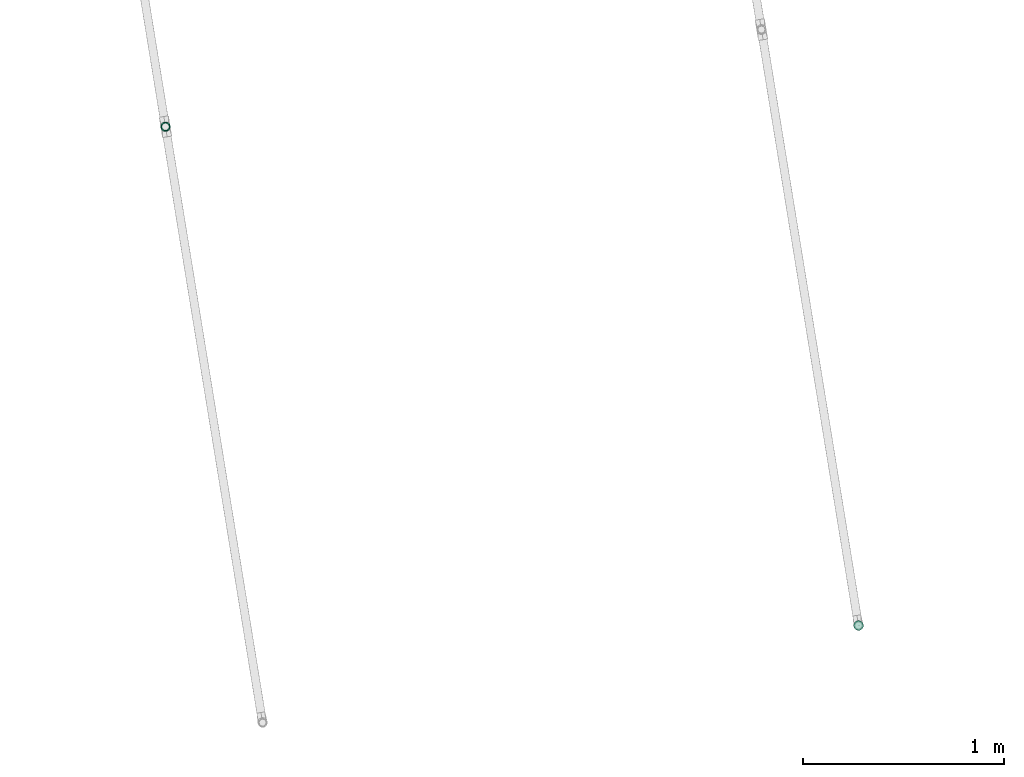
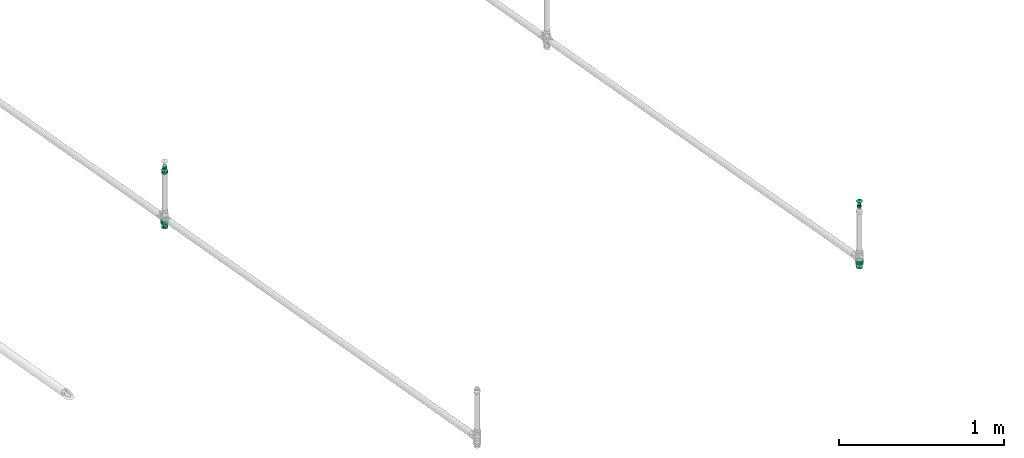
# One storey, part 32 of 56: 3 flow fittings, 1 flow terminal.
"""IFC2X3 building model written with IfcOpenShell, lengths in millimetres."""

from ifc_helpers import new_model, entity, si_unit, converted_unit, derived_unit, direction, frame, origin, origin_with_axes, place, context, subcontext, project, spatial, faceted_brep, source, transform, mapped, material, type_object, element, save


model = new_model("IFC2X3")

# Units and contexts
model_context = context("Model", 3, precision=0.01, world=origin(), true_north=direction((6.12323399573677e-17, 1.0)))
plan_context = context("Plan", 3, precision=1e-05, world=origin_with_axes())
body_context = subcontext(model_context, "Body", "Model", "MODEL_VIEW")
ifc_project = project(units=[converted_unit("PLANEANGLEUNIT", "DEGREE", entity("IfcPositiveLengthMeasure", 0.0174532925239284), si_unit("PLANEANGLEUNIT", "RADIAN"), dimensions=[0, 0, 0, 0, 0, 0, 0]), si_unit("AREAUNIT", "SQUARE_METRE"), si_unit("LENGTHUNIT", "METRE", prefix="MILLI"), si_unit("MASSUNIT", "GRAM", prefix="KILO"), si_unit("POWERUNIT", "WATT"), si_unit("PRESSUREUNIT", "PASCAL", prefix="KILO"), si_unit("FORCEUNIT", "NEWTON", prefix="KILO"), si_unit("ELECTRICVOLTAGEUNIT", "VOLT"), si_unit("ELECTRICCURRENTUNIT", "AMPERE"), si_unit("THERMODYNAMICTEMPERATUREUNIT", "DEGREE_CELSIUS"), si_unit("TIMEUNIT", "SECOND"), si_unit("VOLUMEUNIT", "CUBIC_METRE"), derived_unit("LINEARVELOCITYUNIT", [(si_unit("LENGTHUNIT", "METRE"), 1), (si_unit("TIMEUNIT", "SECOND"), -1)]), derived_unit("VOLUMETRICFLOWRATEUNIT", [(si_unit("VOLUMEUNIT", "CUBIC_METRE"), 1), (si_unit("TIMEUNIT", "SECOND"), -1)]), derived_unit("THERMALTRANSMITTANCEUNIT", [(si_unit("POWERUNIT", "WATT"), 1), (si_unit("THERMODYNAMICTEMPERATUREUNIT", "KELVIN"), -1), (si_unit("AREAUNIT", "SQUARE_METRE"), -1)]), derived_unit("SOUNDPRESSUREUNIT", [(si_unit("PRESSUREUNIT", "PASCAL"), 1)])], contexts=[model_context, plan_context])

# Site, building, storey
site_placement = place(None, frame((-3.09682673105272e-06, 1.93776733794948e-05, 0.0), z_axis=(0.0, 0.0, 1.0), x_axis=(-0.160806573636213, 0.986985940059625, 0.0)))
site = spatial("IfcSite", under=ifc_project, at=site_placement, Name="Default", CompositionType="ELEMENT")
building_placement = place(site_placement, frame((0.0, 0.0, 0.0), z_axis=(0.0, 0.0, 1.0), x_axis=(1.0, -2.77555756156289e-17, 0.0)))
building = spatial("IfcBuilding", under=site, at=building_placement, Name="Bygning (endres i Project Information)", CompositionType="ELEMENT")
storey_placement = place(building_placement, frame((0.0, 0.0, 51360.0000000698), z_axis=(0.0, 0.0, 1.0), x_axis=(1.0, -2.77555756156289e-17, 0.0)))
storey = spatial("IfcBuildingStorey", under=building, at=storey_placement, Name="H01-Nivå D+0,36", CompositionType="ELEMENT", Elevation=51360.0000000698)

# Flow fittings
ifc_material = material(Name="3320.001")
pipe_fitting_type_1 = type_object("IfcPipeFittingType", Name="RS_53_PIF_UN_Reducing-Socket-EN10241_MC_gen:RS_53_PIF_UN_Reducing-Socket-EN10241_MC_gen", PredefinedType="NOTDEFINED", material=ifc_material)
shared_shape_1 = source(origin(), body_context, "Body", "Brep", [
    faceted_brep([(0.0, 5.11167614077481, 19.0770350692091), (0.0, 9.87500000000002, 17.1040017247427), (0.0, 13.9653589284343, 13.9653589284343), (0.0, 17.1040017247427, 9.87499999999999), (0.0, 19.0770350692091, 5.11167614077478), (0.0, 19.75, 0.0), (0.0, 19.0770350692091, -5.1116761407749), (0.0, 17.1040017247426, -9.8750000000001), (0.0, 13.9653589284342, -13.9653589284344), (0.0, 9.87499999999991, -17.1040017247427), (0.0, 5.11167614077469, -19.0770350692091), (0.0, 0.0, -19.75), (0.0, -5.11167614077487, -19.0770350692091), (0.0, -9.87500000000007, -17.1040017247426), (0.0, -13.9653589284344, -13.9653589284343), (0.0, -17.1040017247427, -9.87499999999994), (0.0, -19.0770350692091, -5.11167614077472), (0.0, -19.75, 0.0), (0.0, -19.0770350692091, 5.11167614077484), (0.0, -17.1040017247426, 9.87500000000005), (0.0, -13.9653589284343, 13.9653589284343), (0.0, -9.87499999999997, 17.1040017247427), (0.0, -5.11167614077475, 19.0770350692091), (0.0, 0.0, 19.75), (17.0, -6.65118285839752, -18.277344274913), (17.0, -15.1289479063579, -12.6955675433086), (17.0, -16.8438814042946, -9.72538978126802), (17.0, -18.5588149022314, -6.7552120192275), (17.0, -9.87413131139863, -17.1045032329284), (17.0, -12.5015396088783, -14.9000353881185), (17.0, -19.1544074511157, -3.37760600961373), (17.0, -3.42823440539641, -19.4501853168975), (17.0, 3.43119786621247, -19.4496627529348), (17.0, 0.0014817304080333, -19.4499240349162), (17.0, -19.75, 0.0), (17.0, 6.65396758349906, -18.2763306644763), (17.0, 9.87673730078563, -17.1029985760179), (17.0, 18.5598439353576, -6.75238425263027), (17.0, 16.8453630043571, -9.7228232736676), (17.0, 15.1308820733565, -12.6932622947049), (17.0, 12.5038096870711, -14.8981304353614), (17.0, 19.75, 0.0), (17.0, 15.1308820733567, 12.6932622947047), (17.0, 16.8453630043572, 9.72282327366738), (17.0, 18.5598439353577, 6.75238425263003), (17.0, 9.87673730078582, 17.1029985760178), (17.0, 12.5038096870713, 14.8981304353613), (17.0, 3.43119786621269, 19.4496627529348), (17.0, 6.65396758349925, 18.2763306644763), (17.0, -3.4282344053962, 19.4501853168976), (17.0, 0.00148173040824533, 19.4499240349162), (17.0, -15.1289479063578, 12.6955675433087), (17.0, -6.65118285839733, 18.277344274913), (17.0, -9.87413131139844, 17.1045032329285), (17.0, -12.5015396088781, 14.9000353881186), (17.0, -19.1544074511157, 3.37760600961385), (17.0, -18.5588149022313, 6.75521201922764), (17.0, -16.8438814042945, 9.72538978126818), (34.0, 13.5000000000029, 0.0), (34.0, 12.6868795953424, -4.61444320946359), (34.0, -4.54589529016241, -12.4935366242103), (34.0, -2.34276817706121, -13.2951659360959), (34.0, 6.75195505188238, -11.6902139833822), (34.0, 0.00166747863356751, -13.2948718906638), (34.0, 2.34610313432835, -13.2945778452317), (34.0, 10.3432928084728, -8.67561489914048), (34.0, 8.54762393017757, -10.1829144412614), (34.0, 4.54902909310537, -12.492395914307), (34.0, 11.5150862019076, -6.64502905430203), (34.0, -6.74902240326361, -11.6919073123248), (34.0, -13.4999999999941, 0.0), (34.0, -13.0928608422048, -2.30881275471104), (34.0, -10.3411162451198, -8.6782091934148), (34.0, -8.54506932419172, -10.1850582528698), (34.0, -12.6857216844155, -4.61762550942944), (34.0, -11.5134189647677, -6.64791735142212), (34.0, -13.0928608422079, 2.30881275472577), (34.0, -12.6857216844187, 4.6176255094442), (34.0, 2.34610313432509, 13.2945778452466), (34.0, 4.54902909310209, 12.4923959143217), (34.0, -10.3411162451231, 8.67820919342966), (34.0, 0.00166747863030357, 13.2948718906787), (34.0, -6.74902240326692, 11.6919073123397), (34.0, -8.54506932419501, 10.1850582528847), (34.0, -11.5134189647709, 6.64791735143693), (34.0, -2.34276817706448, 13.2951659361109), (34.0, -4.5458952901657, 12.4935366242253), (34.0, 12.6868795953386, 4.61444320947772), (34.0, 11.5150862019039, 6.64502905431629), (34.0, 10.3432928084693, 8.67561489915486), (34.0, 6.7519550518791, 11.6902139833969), (34.0, 8.54762393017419, 10.1829144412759), (51.0, 3.49405710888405, -13.0399986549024), (51.0, 6.75000000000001, -11.6913429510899), (51.0, 9.5459415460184, -9.54594154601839), (51.0, 11.6913429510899, -6.74999999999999), (51.0, 13.0399986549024, -3.49405710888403), (51.0, 13.5, 0.0), (51.0, 13.0399986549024, 3.49405710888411), (51.0, 11.6913429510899, 6.75000000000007), (51.0, 9.54594154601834, 9.54594154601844), (51.0, 6.74999999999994, 11.69134295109), (51.0, 3.49405710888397, 13.0399986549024), (51.0, 0.0, 13.5), (51.0, -3.49405710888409, 13.0399986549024), (51.0, -6.75000000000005, 11.6913429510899), (51.0, -9.54594154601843, 9.54594154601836), (51.0, -11.6913429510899, 6.74999999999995), (51.0, -13.0399986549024, 3.49405710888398), (51.0, -13.5, 0.0), (51.0, -13.0399986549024, -3.49405710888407), (51.0, -11.6913429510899, -6.75000000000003), (51.0, -9.54594154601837, -9.54594154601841), (51.0, -6.74999999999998, -11.6913429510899), (51.0, -3.49405710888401, -13.0399986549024), (51.0, 0.0, -13.5)], [[[0, 1, 2, 3, 4, 5, 6, 7, 8, 9, 10, 11, 12, 13, 14, 15, 16, 17, 18, 19, 20, 21, 22, 23]], [[24, 13, 12]], [[15, 14, 25]], [[15, 25, 26, 27]], [[28, 29, 13]], [[16, 27, 30]], [[30, 17, 16]], [[15, 27, 16]], [[12, 31, 24]], [[25, 14, 29]], [[11, 32, 33, 31]], [[24, 28, 13]], [[13, 29, 14]], [[30, 34, 17]], [[32, 11, 10]], [[35, 9, 36]], [[7, 37, 38, 39]], [[9, 35, 10]], [[7, 6, 37]], [[8, 39, 40]], [[32, 10, 35]], [[7, 39, 8]], [[40, 36, 9]], [[6, 41, 37]], [[6, 5, 41]], [[11, 31, 12]], [[40, 9, 8]], [[41, 5, 4]], [[3, 2, 42]], [[3, 42, 43, 44]], [[45, 46, 1]], [[44, 41, 4]], [[0, 47, 48]], [[42, 2, 46]], [[23, 49, 50, 47]], [[1, 46, 2]], [[49, 23, 22]], [[19, 51, 20]], [[52, 21, 53]], [[3, 44, 4]], [[48, 45, 1]], [[54, 53, 21]], [[17, 34, 55]], [[21, 52, 22]], [[20, 51, 54]], [[49, 22, 52]], [[48, 1, 0]], [[17, 55, 18]], [[56, 19, 18]], [[18, 55, 56]], [[54, 21, 20]], [[57, 51, 19, 56]], [[23, 47, 0]], [[41, 58, 59]], [[60, 31, 61]], [[40, 62, 36]], [[63, 32, 64]], [[65, 39, 38]], [[64, 32, 35]], [[61, 33, 63]], [[37, 41, 59]], [[62, 40, 66]], [[40, 39, 66]], [[35, 36, 67]], [[65, 38, 68]], [[37, 68, 38]], [[64, 35, 67]], [[61, 31, 33]], [[69, 28, 24]], [[69, 24, 60]], [[70, 30, 71]], [[72, 29, 73]], [[30, 70, 34]], [[74, 27, 26]], [[68, 37, 59]], [[72, 25, 29]], [[27, 74, 71]], [[31, 60, 24]], [[29, 28, 73]], [[75, 26, 25]], [[67, 36, 62]], [[66, 39, 65]], [[27, 71, 30]], [[74, 26, 75]], [[73, 28, 69]], [[63, 33, 32]], [[75, 25, 72]], [[56, 76, 77]], [[48, 78, 79]], [[54, 51, 80]], [[81, 47, 50]], [[57, 56, 77]], [[52, 53, 82]], [[82, 53, 83]], [[55, 70, 76]], [[70, 55, 34]], [[84, 51, 57]], [[50, 85, 81]], [[56, 55, 76]], [[86, 49, 52]], [[83, 53, 54]], [[81, 78, 47]], [[48, 47, 78]], [[80, 51, 84]], [[49, 85, 50]], [[87, 44, 88]], [[87, 58, 41]], [[43, 42, 89]], [[57, 77, 84]], [[46, 45, 90]], [[85, 49, 86]], [[88, 44, 43]], [[54, 80, 83]], [[91, 42, 46]], [[52, 82, 86]], [[89, 42, 91]], [[87, 41, 44]], [[90, 45, 79]], [[46, 90, 91]], [[79, 45, 48]], [[43, 89, 88]], [[92, 93, 94, 95, 96, 97, 98, 99, 100, 101, 102, 103, 104, 105, 106, 107, 108, 109, 110, 111, 112, 113, 114, 115]], [[58, 97, 96]], [[95, 94, 65]], [[95, 65, 68, 59]], [[62, 66, 93]], [[59, 58, 96]], [[92, 64, 67]], [[65, 94, 66]], [[115, 61, 63, 64]], [[93, 66, 94]], [[67, 93, 92]], [[67, 62, 93]], [[95, 59, 96]], [[114, 61, 115]], [[111, 110, 74]], [[73, 113, 112]], [[109, 71, 110]], [[111, 74, 75, 72]], [[109, 70, 71]], [[60, 61, 114]], [[113, 69, 60]], [[111, 72, 112]], [[113, 60, 114]], [[112, 72, 73]], [[115, 64, 92]], [[71, 74, 110]], [[73, 69, 113]], [[86, 105, 104]], [[107, 106, 80]], [[107, 80, 84, 77]], [[82, 83, 105]], [[108, 77, 76]], [[76, 70, 109]], [[76, 109, 108]], [[104, 85, 86]], [[80, 106, 83]], [[103, 78, 81, 85]], [[91, 101, 100]], [[105, 83, 106]], [[86, 82, 105]], [[78, 103, 102]], [[79, 101, 90]], [[99, 87, 88, 89]], [[101, 79, 102]], [[99, 98, 87]], [[100, 89, 91]], [[78, 102, 79]], [[103, 85, 104]], [[99, 89, 100]], [[98, 58, 87]], [[107, 77, 108]], [[98, 97, 58]], [[91, 90, 101]]]),
])
flow_fitting_placement = place(storey_placement, frame((997236.263254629, -386286.663841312, 3707.99999993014), z_axis=(2.77555756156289e-17, 1.0, 0.0), x_axis=(0.0, 0.0, 1.0)))
element("IfcFlowFitting", 1, at=flow_fitting_placement, inside=storey, type_object=pipe_fitting_type_1, material=ifc_material, Name="RS_53_PIF_UN_Reducing-Socket-EN10241_MC_gen:RS_53_PIF_UN_Reducing-Socket-EN10241_MC_gen", ObjectType="RS_53_PIF_UN_Reducing-Socket-EN10241_MC_gen:RS_53_PIF_UN_Reducing-Socket-EN10241_MC_gen", context=body_context, shape_type="MappedRepresentation", body=[
    mapped(shared_shape_1, transform((0.0, 0.0, 0.0), scale=1.0)),
])
pipe_fitting_type_2 = type_object("IfcPipeFittingType", Name="RS_53_PIF_UN_Reducing-Socket-EN10241_MC_gen:RS_53_PIF_UN_Reducing-Socket-EN10241_MC_gen", PredefinedType="NOTDEFINED", material=ifc_material)
shared_shape_2 = source(origin(), body_context, "Body", "Brep", [
    faceted_brep([(0.0, -12.25, 21.2176223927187), (0.0, -6.34106660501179, 23.6651827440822), (0.0, 0.0, 24.5), (0.0, 6.34106660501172, 23.6651827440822), (0.0, 12.25, 21.2176223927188), (0.0, 17.3241161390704, 17.3241161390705), (0.0, 21.2176223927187, 12.2500000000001), (0.0, 23.6651827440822, 6.34106660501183), (0.0, 24.5, 0.0), (0.0, 23.6651827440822, -6.34106660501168), (0.0, 21.2176223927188, -12.2499999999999), (0.0, 17.3241161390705, -17.3241161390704), (0.0, 12.2500000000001, -21.2176223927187), (0.0, 6.34106660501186, -23.6651827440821), (0.0, 0.0, -24.5), (0.0, -6.34106660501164, -23.6651827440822), (0.0, -12.2499999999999, -21.2176223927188), (0.0, -17.3241161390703, -17.3241161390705), (0.0, -21.2176223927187, -12.2500000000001), (0.0, -23.6651827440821, -6.34106660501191), (0.0, -24.5, 0.0), (0.0, -23.6651827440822, 6.34106660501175), (0.0, -21.2176223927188, 12.25), (0.0, -17.3241161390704, 17.3241161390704), (18.6666666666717, 8.25137606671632, -22.6729794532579), (18.6666666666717, 18.7677686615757, -15.7486780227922), (18.6666666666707, 20.8950763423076, -12.0642027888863), (18.6666666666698, 23.0223840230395, -8.37972755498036), (18.6666666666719, 15.5085607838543, -18.4833370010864), (18.6666666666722, 12.2493529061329, -21.2179959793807), (18.6666666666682, 23.7611920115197, -4.18986377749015), (18.6666666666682, 23.7125607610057, -4.46565710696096), (18.6666666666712, 4.25339922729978, -24.1279629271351), (18.6666666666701, -0.00110376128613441, -24.1277682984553), (18.6666666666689, -4.25560674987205, -24.1275736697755), (18.6666666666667, 24.5, 0.0), (18.6666666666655, -12.2512941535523, -21.2168751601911), (18.6666666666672, -8.25345045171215, -22.6722244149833), (18.6666666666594, -20.8961800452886, -12.062290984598), (18.6666666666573, -23.0231506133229, -8.37762113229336), (18.6666666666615, -18.7692094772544, -15.7469608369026), (18.6666666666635, -15.5102518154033, -18.4819179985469), (18.6666666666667, -24.5, 0.0), (18.6666666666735, -18.7692094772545, 15.7469608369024), (18.666666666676, -20.8961800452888, 12.0622909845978), (18.6666666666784, -23.023150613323, 8.3776211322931), (18.6666666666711, -15.5102518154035, 18.4819179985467), (18.6666666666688, -12.2512941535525, 21.216875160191), (18.6666666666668, -8.25345045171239, 22.6722244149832), (18.6666666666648, -4.25560674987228, 24.1275736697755), (18.6666666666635, -0.00110376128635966, 24.1277682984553), (18.6666666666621, 4.25339922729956, 24.1279629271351), (18.6666666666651, 23.7611920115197, 4.1898637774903), (18.666666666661, 12.2493529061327, 21.2179959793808), (18.6666666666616, 8.25137606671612, 22.672979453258), (18.6666666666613, 15.5085607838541, 18.4833370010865), (18.6666666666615, 18.7677686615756, 15.7486780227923), (18.6666666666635, 23.0223840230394, 8.37972755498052), (18.6666666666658, 23.7125607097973, 4.46565739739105), (18.6666666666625, 20.8950763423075, 12.0642027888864), (37.3333333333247, -18.5595959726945, -6.75306577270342), (37.3333333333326, -19.750000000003, 0.0), (37.3333333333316, -9.87626627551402, -17.1032705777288), (37.3333333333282, -15.1304742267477, -12.6937484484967), (37.3333333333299, -12.5033702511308, -14.8985095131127), (37.3333333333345, -3.43075149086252, -19.4497414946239), (37.333333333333, -6.65350888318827, -18.2765060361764), (37.3333333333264, -16.8450350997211, -9.72340711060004), (37.3333333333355, -0.00107998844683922, -19.4499319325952), (37.3333333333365, 3.42859151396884, -19.4501223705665), (37.3333333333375, 9.87436684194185, -17.1043672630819), (37.333333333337, 6.65147917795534, -18.2772448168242), (37.3333333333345, 19.1544229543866, -3.37756341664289), (37.3333333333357, 18.558845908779, -6.75512683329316), (37.3333333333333, 19.7499999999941, 0.0), (37.3333333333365, 16.8439551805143, -9.72527774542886), (37.3333333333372, 15.1290644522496, -12.6954286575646), (37.3333333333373, 12.5017156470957, -14.8998979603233), (37.3333333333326, 19.1544229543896, 3.37756341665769), (37.3333333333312, 18.5588459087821, 6.755126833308), (37.3333333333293, 15.1290644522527, 12.6954286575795), (37.3333333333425, -16.8450350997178, 9.72340711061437), (37.3333333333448, -18.559595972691, 6.75306577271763), (37.3333333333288, 9.87436684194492, 17.104367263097), (37.3333333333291, 12.5017156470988, 14.8998979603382), (37.3333333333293, 6.65147917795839, 18.2772448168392), (37.3333333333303, 16.8439551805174, 9.72527774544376), (37.3333333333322, -3.43075149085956, 19.4497414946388), (37.333333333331, -0.00107998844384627, 19.4499319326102), (37.3333333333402, -15.1304742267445, 12.6937484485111), (37.333333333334, -6.65350888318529, 18.2765060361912), (37.3333333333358, -9.87626627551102, 17.1032705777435), (37.333333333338, -12.5033702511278, 14.8985095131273), (37.3333333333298, 3.42859151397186, 19.4501223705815), (56.0, 0.0, -19.75), (56.0, 5.11167614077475, -19.0770350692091), (56.0, 9.87499999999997, -17.1040017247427), (56.0, 13.9653589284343, -13.9653589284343), (56.0, 17.1040017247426, -9.87500000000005), (56.0, 19.0770350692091, -5.11167614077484), (56.0, 19.75, 0.0), (56.0, 19.0770350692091, 5.11167614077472), (56.0, 17.1040017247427, 9.87499999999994), (56.0, 13.9653589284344, 13.9653589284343), (56.0, 9.87500000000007, 17.1040017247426), (56.0, 5.11167614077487, 19.0770350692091), (56.0, 0.0, 19.75), (56.0, -5.11167614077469, 19.0770350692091), (56.0, -9.87499999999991, 17.1040017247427), (56.0, -13.9653589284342, 13.9653589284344), (56.0, -17.1040017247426, 9.8750000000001), (56.0, -19.0770350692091, 5.1116761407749), (56.0, -19.75, 0.0), (56.0, -19.0770350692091, -5.11167614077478), (56.0, -17.1040017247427, -9.87499999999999), (56.0, -13.9653589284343, -13.9653589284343), (56.0, -9.87500000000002, -17.1040017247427), (56.0, -5.11167614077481, -19.0770350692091)], [[[0, 1, 2, 3, 4, 5, 6, 7, 8, 9, 10, 11, 12, 13, 14, 15, 16, 17, 18, 19, 20, 21, 22, 23]], [[13, 12, 24]], [[25, 11, 10]], [[26, 25, 10, 27]], [[12, 28, 29]], [[9, 30, 31, 27]], [[9, 8, 30]], [[9, 27, 10]], [[24, 32, 13]], [[28, 11, 25]], [[33, 34, 14, 32]], [[12, 29, 24]], [[11, 28, 12]], [[8, 35, 30]], [[15, 14, 34]], [[36, 16, 37]], [[38, 39, 18, 40]], [[15, 37, 16]], [[39, 19, 18]], [[41, 40, 17]], [[37, 15, 34]], [[17, 40, 18]], [[16, 36, 41]], [[39, 42, 19]], [[42, 20, 19]], [[13, 32, 14]], [[17, 16, 41]], [[21, 20, 42]], [[43, 23, 22]], [[44, 43, 22, 45]], [[0, 46, 47]], [[21, 42, 45]], [[48, 49, 1]], [[46, 23, 43]], [[50, 51, 2, 49]], [[23, 46, 0]], [[3, 2, 51]], [[1, 49, 2]], [[7, 52, 8]], [[53, 4, 54]], [[1, 0, 48]], [[5, 4, 55]], [[8, 52, 35]], [[21, 45, 22]], [[3, 54, 4]], [[55, 56, 5]], [[54, 3, 51]], [[0, 47, 48]], [[5, 56, 6]], [[7, 6, 57]], [[7, 57, 58, 52]], [[4, 53, 55]], [[6, 56, 59, 57]], [[60, 61, 42]], [[36, 62, 41]], [[63, 40, 64]], [[63, 38, 40]], [[65, 37, 34]], [[66, 37, 65]], [[60, 42, 39]], [[67, 38, 63]], [[64, 40, 41]], [[66, 36, 37]], [[64, 41, 62]], [[38, 67, 39]], [[68, 33, 69]], [[33, 32, 69]], [[29, 70, 24]], [[71, 69, 32]], [[72, 31, 30, 35]], [[26, 27, 73]], [[35, 74, 72]], [[73, 75, 26]], [[28, 25, 76]], [[76, 77, 28]], [[71, 24, 70]], [[71, 32, 24]], [[29, 77, 70]], [[25, 75, 76]], [[28, 77, 29]], [[26, 75, 25]], [[27, 31, 73]], [[72, 73, 31]], [[62, 36, 66]], [[34, 33, 68]], [[65, 34, 68]], [[60, 39, 67]], [[78, 58, 79]], [[56, 55, 80]], [[81, 45, 82]], [[57, 59, 79]], [[53, 54, 83]], [[84, 80, 55]], [[78, 35, 52, 58]], [[58, 57, 79]], [[55, 53, 84]], [[54, 51, 85]], [[74, 35, 78]], [[59, 56, 86]], [[53, 83, 84]], [[87, 88, 49]], [[87, 49, 48]], [[86, 79, 59]], [[85, 83, 54]], [[50, 49, 88]], [[42, 61, 82]], [[89, 43, 44]], [[48, 47, 90]], [[91, 47, 46]], [[56, 80, 86]], [[44, 45, 81]], [[90, 87, 48]], [[46, 43, 92]], [[90, 47, 91]], [[93, 51, 50]], [[82, 45, 42]], [[51, 93, 85]], [[81, 89, 44]], [[88, 93, 50]], [[92, 91, 46]], [[92, 43, 89]], [[94, 95, 96, 97, 98, 99, 100, 101, 102, 103, 104, 105, 106, 107, 108, 109, 110, 111, 112, 113, 114, 115, 116, 117]], [[113, 112, 61]], [[63, 115, 114]], [[67, 63, 114, 60]], [[116, 64, 62]], [[113, 61, 60]], [[66, 65, 117]], [[64, 115, 63]], [[68, 69, 94, 65]], [[115, 64, 116]], [[69, 95, 94]], [[96, 70, 77]], [[117, 116, 66]], [[71, 70, 96]], [[73, 99, 98]], [[95, 71, 96]], [[117, 65, 94]], [[113, 60, 114]], [[74, 100, 72]], [[95, 69, 71]], [[97, 76, 98]], [[77, 76, 97]], [[97, 96, 77]], [[75, 73, 98, 76]], [[99, 72, 100]], [[116, 62, 66]], [[99, 73, 72]], [[105, 104, 85]], [[80, 103, 102]], [[86, 80, 102, 79]], [[104, 84, 83]], [[78, 79, 101]], [[101, 100, 78]], [[101, 79, 102]], [[85, 93, 105]], [[84, 103, 80]], [[88, 87, 106, 93]], [[104, 83, 85]], [[103, 84, 104]], [[100, 74, 78]], [[107, 106, 87]], [[91, 108, 90]], [[81, 82, 110, 89]], [[107, 90, 108]], [[82, 111, 110]], [[92, 89, 109]], [[90, 107, 87]], [[109, 89, 110]], [[108, 91, 92]], [[82, 61, 111]], [[61, 112, 111]], [[105, 93, 106]], [[109, 108, 92]]]),
])
for number, where, z_axis, x_axis in (
    (2, (994236.263254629, -389286.663841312, 3359.06666666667), (1.0, -2.77555756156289e-17, 0.0), (0.0, 0.0, -1.0)),
    (3, (997236.263254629, -386286.663841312, 3359.06666666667), (1.0, -2.77555756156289e-17, 0.0), (0.0, 0.0, -1.0)),
):
    element("IfcFlowFitting", number, at=place(storey_placement, frame(where, z_axis=z_axis, x_axis=x_axis)), inside=storey, type_object=pipe_fitting_type_2, material=ifc_material, Name="RS_53_PIF_UN_Reducing-Socket-EN10241_MC_gen:RS_53_PIF_UN_Reducing-Socket-EN10241_MC_gen", ObjectType="RS_53_PIF_UN_Reducing-Socket-EN10241_MC_gen:RS_53_PIF_UN_Reducing-Socket-EN10241_MC_gen", context=body_context, shape_type="MappedRepresentation", body=[
        mapped(shared_shape_2, transform((0.0, 0.0, 0.0), scale=1.0)),
    ])

# Flow terminal
fire_suppression_terminal_type = type_object("IfcFireSuppressionTerminalType", Name="SU-15-K80-68DGR-STD:SU-15-K80-68DGR-STD", PredefinedType="NOTDEFINED", material=ifc_material)
shared_shape_3 = source(origin(), body_context, "Body", "Brep", [
    faceted_brep([(-2.5, 0.0, 62.0), (0.0, -2.5, 62.0), (2.5, 0.0, 62.0), (0.0, 2.5, 62.0), (-2.5, 0.0, 59.0), (0.0, 2.5, 59.0), (2.5, 0.0, 59.0), (0.0, -2.5, 59.0)], [[[0, 1, 2, 3]], [[4, 5, 6, 7]], [[0, 4, 7, 1]], [[7, 6, 2, 1]], [[2, 6, 5, 3]], [[5, 4, 0, 3]]]),
    faceted_brep([(1.0, -13.5, 47.0), (1.0, -13.5, 19.0), (1.0, -8.5, 19.0), (1.0, -8.5, 42.0), (1.0, 8.5, 42.0), (1.0, 8.5, 19.0), (1.0, 13.5, 19.0), (1.0, 13.5, 47.0), (-1.0, -13.5, 47.0), (-1.0, 13.5, 47.0), (-1.0, 13.5, 19.0), (-1.0, 8.5, 19.0), (-1.0, 8.5, 42.0), (-1.0, -8.5, 42.0), (-1.0, -8.5, 19.0), (-1.0, -13.5, 19.0)], [[[0, 1, 2, 3, 4, 5, 6, 7]], [[8, 9, 10, 11, 12, 13, 14, 15]], [[1, 0, 8, 15]], [[2, 1, 15, 14]], [[3, 2, 14, 13]], [[4, 3, 13, 12]], [[5, 4, 12, 11]], [[6, 5, 11, 10]], [[7, 6, 10, 9]], [[0, 7, 9, 8]]]),
    faceted_brep([(-13.5, 1.0, 47.0), (13.5, 1.0, 47.0), (13.5, 1.0, 19.0), (8.5, 1.0, 19.0), (8.5, 1.0, 42.0), (-8.5, 1.0, 42.0), (-8.5, 1.0, 19.0), (-13.5, 1.0, 19.0), (-13.5, -1.0, 47.0), (-13.5, -1.0, 19.0), (-8.5, -1.0, 19.0), (-8.5, -1.0, 42.0), (8.5, -1.0, 42.0), (8.5, -1.0, 19.0), (13.5, -1.0, 19.0), (13.5, -1.0, 47.0)], [[[0, 1, 2, 3, 4, 5, 6, 7]], [[8, 9, 10, 11, 12, 13, 14, 15]], [[1, 0, 8, 15]], [[2, 1, 15, 14]], [[3, 2, 14, 13]], [[4, 3, 13, 12]], [[5, 4, 12, 11]], [[6, 5, 11, 10]], [[7, 6, 10, 9]], [[0, 7, 9, 8]]]),
    faceted_brep([(0.0, 2.5, 59.0), (-2.5, 0.0, 59.0), (0.0, -2.5, 59.0), (2.5, 0.0, 59.0), (6.4893568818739, 19.9721868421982, 53.0), (16.9893568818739, 12.3434902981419, 53.0), (21.0, 0.0, 53.0), (16.989356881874, -12.3434902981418, 53.0), (6.48935688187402, -19.9721868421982, 53.0), (-6.48935688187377, -19.9721868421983, 53.0), (-16.9893568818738, -12.343490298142, 53.0), (-21.0, 0.0, 53.0), (-16.9893568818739, 12.3434902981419, 53.0), (-6.48935688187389, 19.9721868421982, 53.0)], [[[0, 1, 2, 3]], [[4, 5, 6, 7, 8, 9, 10, 11, 12, 13]], [[6, 3, 7]], [[2, 8, 7]], [[7, 3, 2]], [[2, 1, 10]], [[2, 10, 9]], [[10, 1, 11]], [[2, 9, 8]], [[11, 1, 12]], [[0, 13, 12]], [[12, 1, 0]], [[0, 3, 5]], [[0, 5, 4]], [[5, 3, 6]], [[0, 4, 13]]]),
    faceted_brep([(-2.5, 0.0, 53.0), (0.0, -2.5, 53.0), (2.5, 0.0, 53.0), (0.0, 2.5, 53.0), (-2.5, 0.0, 19.0), (0.0, 2.5, 19.0), (2.5, 0.0, 19.0), (0.0, -2.5, 19.0)], [[[0, 1, 2, 3]], [[4, 5, 6, 7]], [[0, 4, 7, 1]], [[7, 6, 2, 1]], [[2, 6, 5, 3]], [[5, 4, 0, 3]]]),
    faceted_brep([(3.62346663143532, -13.5229615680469, 19.0), (7.0, -12.1243556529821, 19.0), (9.89949493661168, -9.89949493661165, 19.0), (12.1243556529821, -7.0, 19.0), (13.522961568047, -3.62346663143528, 19.0), (14.0, 0.0, 19.0), (13.522961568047, 3.62346663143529, 19.0), (12.1243556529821, 7.0, 19.0), (9.89949493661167, 9.89949493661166, 19.0), (7.0, 12.1243556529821, 19.0), (3.62346663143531, 13.522961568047, 19.0), (0.0, 14.0, 19.0), (-3.62346663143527, 13.522961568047, 19.0), (-7.0, 12.1243556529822, 19.0), (-9.89949493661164, 9.89949493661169, 19.0), (-12.1243556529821, 7.0, 19.0), (-13.5229615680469, 3.62346663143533, 19.0), (-14.0, 0.0, 19.0), (-13.5229615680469, -3.62346663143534, 19.0), (-12.1243556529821, -7.0, 19.0), (-9.89949493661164, -9.89949493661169, 19.0), (-7.0, -12.1243556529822, 19.0), (-3.62346663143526, -13.522961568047, 19.0), (0.0, -14.0, 19.0), (9.89949493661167, 9.89949493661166, 13.0), (12.1243556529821, 7.0, 13.0), (13.522961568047, 3.62346663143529, 13.0), (14.0, 0.0, 13.0), (13.522961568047, -3.62346663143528, 13.0), (12.1243556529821, -7.0, 13.0), (9.89949493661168, -9.89949493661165, 13.0), (7.0, -12.1243556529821, 13.0), (3.62346663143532, -13.5229615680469, 13.0), (0.0, -14.0, 13.0), (-3.62346663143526, -13.522961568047, 13.0), (-7.0, -12.1243556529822, 13.0), (-9.89949493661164, -9.89949493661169, 13.0), (-12.1243556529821, -7.0, 13.0), (-13.5229615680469, -3.62346663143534, 13.0), (-14.0, 0.0, 13.0), (-13.5229615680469, 3.62346663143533, 13.0), (-12.1243556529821, 7.0, 13.0), (-9.89949493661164, 9.89949493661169, 13.0), (-7.0, 12.1243556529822, 13.0), (-3.62346663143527, 13.522961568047, 13.0), (0.0, 14.0, 13.0), (3.62346663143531, 13.522961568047, 13.0), (7.0, 12.1243556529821, 13.0)], [[[0, 1, 2, 3, 4, 5, 6, 7, 8, 9, 10, 11, 12, 13, 14, 15, 16, 17, 18, 19, 20, 21, 22, 23]], [[24, 25, 26, 27, 28, 29, 30, 31, 32, 33, 34, 35, 36, 37, 38, 39, 40, 41, 42, 43, 44, 45, 46, 47]], [[38, 18, 17, 39]], [[37, 19, 18, 38]], [[21, 20, 36, 35]], [[37, 36, 20, 19]], [[22, 21, 35, 34]], [[23, 22, 34, 33]], [[32, 0, 23, 33]], [[31, 1, 0, 32]], [[3, 2, 30, 29]], [[31, 30, 2, 1]], [[4, 3, 29, 28]], [[5, 4, 28, 27]], [[26, 6, 5, 27]], [[25, 7, 6, 26]], [[9, 8, 24, 47]], [[25, 24, 8, 7]], [[10, 9, 47, 46]], [[11, 10, 46, 45]], [[44, 12, 11, 45]], [[43, 13, 12, 44]], [[15, 14, 42, 41]], [[43, 42, 14, 13]], [[16, 15, 41, 40]], [[17, 16, 40, 39]]]),
    faceted_brep([(1.94114283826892, -7.24444369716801, 13.0), (3.75000000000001, -6.49519052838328, 13.0), (5.30330085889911, -5.3033008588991, 13.0), (6.49519052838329, -3.75, 13.0), (7.24444369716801, -1.9411428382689, 13.0), (7.5, 0.0, 13.0), (7.24444369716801, 1.9411428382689, 13.0), (6.49519052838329, 3.75, 13.0), (5.30330085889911, 5.3033008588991, 13.0), (3.75000000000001, 6.49519052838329, 13.0), (1.94114283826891, 7.24444369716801, 13.0), (0.0, 7.5, 13.0), (-1.94114283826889, 7.24444369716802, 13.0), (-3.74999999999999, 6.4951905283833, 13.0), (-5.3033008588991, 5.30330085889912, 13.0), (-6.49519052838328, 3.75000000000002, 13.0), (-7.24444369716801, 1.94114283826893, 13.0), (-7.5, 0.0, 13.0), (-7.244443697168, -1.94114283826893, 13.0), (-6.49519052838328, -3.75000000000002, 13.0), (-5.30330085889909, -5.30330085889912, 13.0), (-3.74999999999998, -6.4951905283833, 13.0), (-1.94114283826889, -7.24444369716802, 13.0), (0.0, -7.5, 13.0), (5.30330085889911, 5.3033008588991, 0.0), (6.49519052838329, 3.75, 0.0), (7.24444369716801, 1.9411428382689, 0.0), (7.5, 0.0, 0.0), (7.24444369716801, -1.9411428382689, 0.0), (6.49519052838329, -3.75, 0.0), (5.30330085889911, -5.3033008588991, 0.0), (3.75000000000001, -6.49519052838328, 0.0), (1.94114283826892, -7.24444369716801, 0.0), (0.0, -7.5, 0.0), (-1.94114283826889, -7.24444369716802, 0.0), (-3.74999999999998, -6.4951905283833, 0.0), (-5.30330085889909, -5.30330085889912, 0.0), (-6.49519052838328, -3.75000000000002, 0.0), (-7.244443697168, -1.94114283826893, 0.0), (-7.5, 0.0, 0.0), (-7.24444369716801, 1.94114283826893, 0.0), (-6.49519052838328, 3.75000000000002, 0.0), (-5.3033008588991, 5.30330085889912, 0.0), (-3.74999999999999, 6.4951905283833, 0.0), (-1.94114283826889, 7.24444369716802, 0.0), (0.0, 7.5, 0.0), (1.94114283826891, 7.24444369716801, 0.0), (3.75000000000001, 6.49519052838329, 0.0)], [[[0, 1, 2, 3, 4, 5, 6, 7, 8, 9, 10, 11, 12, 13, 14, 15, 16, 17, 18, 19, 20, 21, 22, 23]], [[24, 25, 26, 27, 28, 29, 30, 31, 32, 33, 34, 35, 36, 37, 38, 39, 40, 41, 42, 43, 44, 45, 46, 47]], [[38, 18, 17, 39]], [[37, 19, 18, 38]], [[21, 20, 36, 35]], [[37, 36, 20, 19]], [[22, 21, 35, 34]], [[23, 22, 34, 33]], [[32, 0, 23, 33]], [[31, 1, 0, 32]], [[3, 2, 30, 29]], [[31, 30, 2, 1]], [[4, 3, 29, 28]], [[5, 4, 28, 27]], [[26, 6, 5, 27]], [[25, 7, 6, 26]], [[9, 8, 24, 47]], [[25, 24, 8, 7]], [[10, 9, 47, 46]], [[11, 10, 46, 45]], [[44, 12, 11, 45]], [[43, 13, 12, 44]], [[15, 14, 42, 41]], [[43, 42, 14, 13]], [[16, 15, 41, 40]], [[17, 16, 40, 39]]]),
])
flow_terminal_placement = place(storey_placement, frame((994236.263254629, -389286.663841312, 3741.99999993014), z_axis=(0.0, 0.0, 1.0), x_axis=(-1.0, 2.77555756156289e-17, 0.0)))
element("IfcFlowTerminal", 4, at=flow_terminal_placement, inside=storey, type_object=fire_suppression_terminal_type, material=ifc_material, Name="SU-15-K80-68DGR-STD:SU-15-K80-68DGR-STD", ObjectType="SU-15-K80-68DGR-STD:SU-15-K80-68DGR-STD", context=body_context, shape_type="MappedRepresentation", body=[
    mapped(shared_shape_3, transform((0.0, 0.0, 0.0), scale=1.0)),
])

save(model, "model.ifc")
